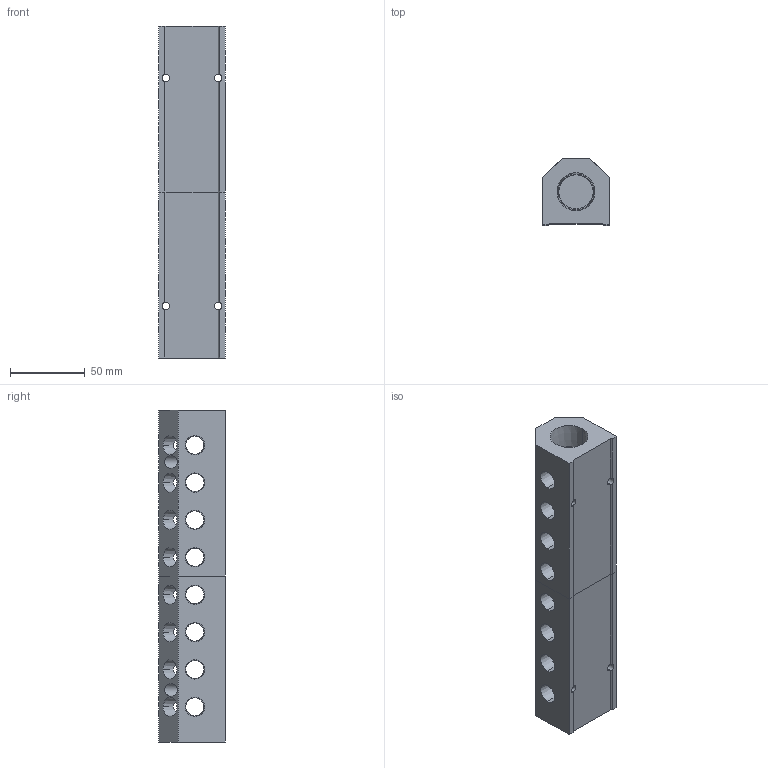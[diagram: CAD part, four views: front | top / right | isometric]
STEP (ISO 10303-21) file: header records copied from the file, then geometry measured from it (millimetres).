
FILE_DESCRIPTION (( 'STEP AP214' ), '1' );
FILE_NAME ('ALM8ABCDE-N4N12-222RB.step', '2022-02-06T14:18:52', ( '' ), ( '' ), 'SwSTEP 2.0', 'SolidWorks 2020', '' );
FILE_SCHEMA (( 'AUTOMOTIVE_DESIGN' ));
Length unit declared in the file: millimetre
Products named in the file (1): ALM8ABCDE-N4N12-222RB
Bounding box: 44.5 x 44.5 x 222 mm (x, y, z)
Volume: 241713.2 mm3; surface area: 69169.9 mm2
Topology: 2 solids, 2 shells, 480 faces, 1414 edges, 940 vertices
Faces by surface type: plane 266, cone 94, bspline 82, cylinder 38
Entity records: 28630 total; most frequent: CARTESIAN_POINT 12025, ORIENTED_EDGE 2828, DIRECTION 1924, EDGE_CURVE 1414, VERTEX_POINT 940, VECTOR 846, LINE 846, EDGE_LOOP 570
